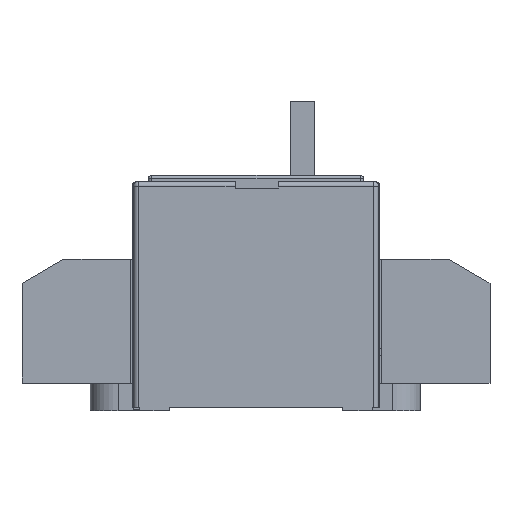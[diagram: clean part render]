
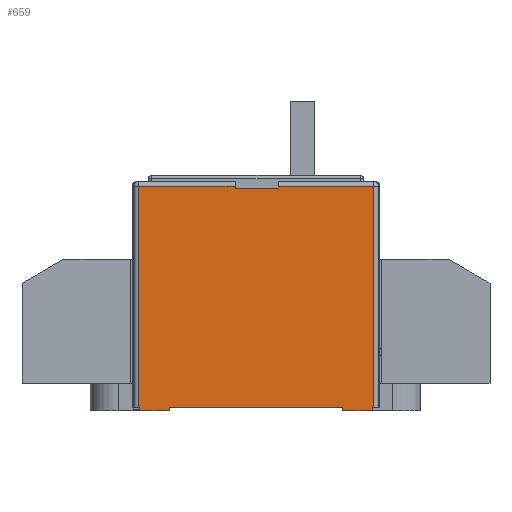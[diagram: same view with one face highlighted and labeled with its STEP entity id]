
A CAD part, left-side view. The second image highlights one B-rep face of the part: STEP entity #659.
In plain terms, the highlighted planar face has unit normal (-1, 0, 0).
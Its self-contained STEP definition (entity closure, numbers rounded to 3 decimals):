
#659=ADVANCED_FACE('',(#1463),#1139,.F.);
#1139=PLANE('',#9201);
#1463=FACE_OUTER_BOUND('',#1918,.T.);
#1918=EDGE_LOOP('',(#2870,#2871,#2872,#2873,#2874,#2875,#2876,#2877,#2878,
#2879,#2880,#2881,#2882,#2883,#2884,#2885));
#2870=ORIENTED_EDGE('',*,*,#6166,.F.);
#2871=ORIENTED_EDGE('',*,*,#6167,.T.);
#2872=ORIENTED_EDGE('',*,*,#6168,.T.);
#2873=ORIENTED_EDGE('',*,*,#6169,.F.);
#2874=ORIENTED_EDGE('',*,*,#6170,.T.);
#2875=ORIENTED_EDGE('',*,*,#6171,.T.);
#2876=ORIENTED_EDGE('',*,*,#6164,.T.);
#2877=ORIENTED_EDGE('',*,*,#6016,.T.);
#2878=ORIENTED_EDGE('',*,*,#6161,.F.);
#2879=ORIENTED_EDGE('',*,*,#6172,.F.);
#2880=ORIENTED_EDGE('',*,*,#6173,.T.);
#2881=ORIENTED_EDGE('',*,*,#5847,.T.);
#2882=ORIENTED_EDGE('',*,*,#6174,.F.);
#2883=ORIENTED_EDGE('',*,*,#6175,.F.);
#2884=ORIENTED_EDGE('',*,*,#6176,.T.);
#2885=ORIENTED_EDGE('',*,*,#6032,.T.);
#5021=VERTEX_POINT('',#12556);
#5022=VERTEX_POINT('',#12558);
#5178=VERTEX_POINT('',#12907);
#5179=VERTEX_POINT('',#12909);
#5190=VERTEX_POINT('',#12935);
#5193=VERTEX_POINT('',#12941);
#5273=VERTEX_POINT('',#13188);
#5275=VERTEX_POINT('',#13196);
#5276=VERTEX_POINT('',#13200);
#5277=VERTEX_POINT('',#13202);
#5278=VERTEX_POINT('',#13204);
#5279=VERTEX_POINT('',#13206);
#5280=VERTEX_POINT('',#13208);
#5281=VERTEX_POINT('',#13211);
#5282=VERTEX_POINT('',#13214);
#5283=VERTEX_POINT('',#13216);
#5847=EDGE_CURVE('',#5022,#5021,#7131,.T.);
#6016=EDGE_CURVE('',#5179,#5178,#7267,.T.);
#6032=EDGE_CURVE('',#5190,#5193,#7279,.T.);
#6161=EDGE_CURVE('',#5273,#5178,#7393,.T.);
#6164=EDGE_CURVE('',#5275,#5179,#7396,.T.);
#6166=EDGE_CURVE('',#5276,#5193,#7397,.T.);
#6167=EDGE_CURVE('',#5276,#5277,#7398,.T.);
#6168=EDGE_CURVE('',#5277,#5278,#7399,.T.);
#6169=EDGE_CURVE('',#5279,#5278,#7400,.T.);
#6170=EDGE_CURVE('',#5279,#5280,#7401,.T.);
#6171=EDGE_CURVE('',#5280,#5275,#7402,.T.);
#6172=EDGE_CURVE('',#5281,#5273,#7403,.T.);
#6173=EDGE_CURVE('',#5281,#5022,#7404,.T.);
#6174=EDGE_CURVE('',#5282,#5021,#7405,.T.);
#6175=EDGE_CURVE('',#5283,#5282,#7406,.T.);
#6176=EDGE_CURVE('',#5283,#5190,#7407,.T.);
#7131=LINE('',#12557,#8135);
#7267=LINE('',#12908,#8271);
#7279=LINE('',#12942,#8283);
#7393=LINE('',#13189,#8397);
#7396=LINE('',#13195,#8400);
#7397=LINE('',#13199,#8401);
#7398=LINE('',#13201,#8402);
#7399=LINE('',#13203,#8403);
#7400=LINE('',#13205,#8404);
#7401=LINE('',#13207,#8405);
#7402=LINE('',#13209,#8406);
#7403=LINE('',#13210,#8407);
#7404=LINE('',#13212,#8408);
#7405=LINE('',#13213,#8409);
#7406=LINE('',#13215,#8410);
#7407=LINE('',#13217,#8411);
#8135=VECTOR('',#9945,1.);
#8271=VECTOR('',#10197,1.);
#8283=VECTOR('',#10223,1.);
#8397=VECTOR('',#10443,1.);
#8400=VECTOR('',#10450,1.);
#8401=VECTOR('',#10455,1.);
#8402=VECTOR('',#10456,1.);
#8403=VECTOR('',#10457,1.);
#8404=VECTOR('',#10458,1.);
#8405=VECTOR('',#10459,1.);
#8406=VECTOR('',#10460,1.);
#8407=VECTOR('',#10461,1.);
#8408=VECTOR('',#10462,1.);
#8409=VECTOR('',#10463,1.);
#8410=VECTOR('',#10464,1.);
#8411=VECTOR('',#10465,1.);
#9201=AXIS2_PLACEMENT_3D('',#13218,#10466,#10467);
#9945=DIRECTION('',(0.,-1.,0.));
#10197=DIRECTION('',(0.,-1.,0.));
#10223=DIRECTION('',(0.,-1.,0.));
#10443=DIRECTION('',(0.,0.,1.));
#10450=DIRECTION('',(0.,0.,-1.));
#10455=DIRECTION('',(0.,0.,-1.));
#10456=DIRECTION('',(0.,1.,0.));
#10457=DIRECTION('',(0.,0.,-1.));
#10458=DIRECTION('',(0.,-1.,0.));
#10459=DIRECTION('',(0.,0.,1.));
#10460=DIRECTION('',(0.,1.,0.));
#10461=DIRECTION('',(0.,1.,0.));
#10462=DIRECTION('',(0.,0.,1.));
#10463=DIRECTION('',(0.,0.,1.));
#10464=DIRECTION('',(0.,1.,0.));
#10465=DIRECTION('',(0.,0.,1.));
#10466=DIRECTION('',(1.,0.,0.));
#10467=DIRECTION('',(0.,0.,-1.));
#12556=CARTESIAN_POINT('',(-69.,-52.735,-3.9));
#12557=CARTESIAN_POINT('',(-69.,-62.235,-3.9));
#12558=CARTESIAN_POINT('',(-69.,3.265,-3.9));
#12907=CARTESIAN_POINT('',(-69.,12.765,-3.9));
#12908=CARTESIAN_POINT('',(-69.,-62.235,-3.9));
#12909=CARTESIAN_POINT('',(-69.,13.265,-3.9));
#12935=CARTESIAN_POINT('',(-69.,-62.235,-3.9));
#12941=CARTESIAN_POINT('',(-69.,-62.735,-3.9));
#12942=CARTESIAN_POINT('',(-69.,-62.235,-3.9));
#13188=CARTESIAN_POINT('',(-69.,12.765,-4.9));
#13189=CARTESIAN_POINT('',(-69.,12.765,-5.9));
#13195=CARTESIAN_POINT('',(-69.,13.265,69.1));
#13196=CARTESIAN_POINT('',(-69.,13.265,67.6));
#13199=CARTESIAN_POINT('',(-69.,-62.735,69.1));
#13200=CARTESIAN_POINT('',(-69.,-62.735,67.6));
#13201=CARTESIAN_POINT('',(-69.,13.265,67.6));
#13202=CARTESIAN_POINT('',(-69.,-31.985,67.6));
#13203=CARTESIAN_POINT('',(-69.,-31.985,69.1));
#13204=CARTESIAN_POINT('',(-69.,-31.985,67.));
#13205=CARTESIAN_POINT('',(-69.,12.765,67.));
#13206=CARTESIAN_POINT('',(-69.,-17.985,67.));
#13207=CARTESIAN_POINT('',(-69.,-17.985,69.1));
#13208=CARTESIAN_POINT('',(-69.,-17.985,67.6));
#13209=CARTESIAN_POINT('',(-69.,13.265,67.6));
#13210=CARTESIAN_POINT('',(-69.,3.265,-4.9));
#13211=CARTESIAN_POINT('',(-69.,3.265,-4.9));
#13212=CARTESIAN_POINT('',(-69.,3.265,-5.9));
#13213=CARTESIAN_POINT('',(-69.,-52.735,-5.9));
#13214=CARTESIAN_POINT('',(-69.,-52.735,-4.9));
#13215=CARTESIAN_POINT('',(-69.,-62.235,-4.9));
#13216=CARTESIAN_POINT('',(-69.,-62.235,-4.9));
#13217=CARTESIAN_POINT('',(-69.,-62.235,-5.9));
#13218=CARTESIAN_POINT('',(-69.,-62.235,69.1));
